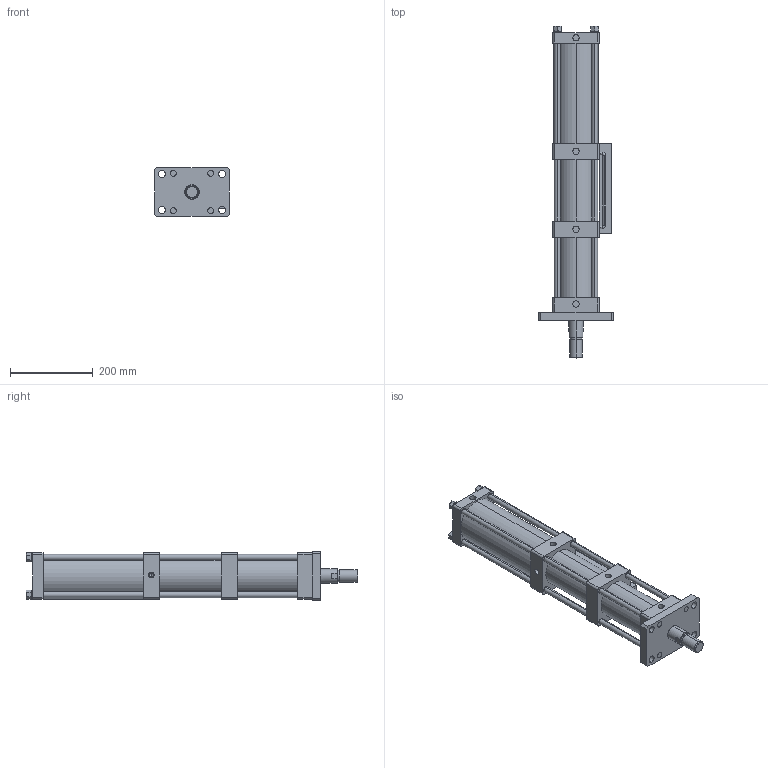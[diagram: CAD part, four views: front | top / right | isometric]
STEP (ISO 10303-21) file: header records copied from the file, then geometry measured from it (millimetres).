
FILE_DESCRIPTION (( 'STEP AP203' ), '1' );
FILE_NAME ('MPTF-80-100-15-5T.STEP', '2016-03-29T10:09:25', ( 'WIN' ), ( '' ), 'SwSTEP 2.0', 'SolidWorks 2014', '' );
FILE_SCHEMA (( 'CONFIG_CONTROL_DESIGN' ));
Length unit declared in the file: millimetre
Products named in the file (1): MPTF-80-100-15-5T
Bounding box: 180 x 800 x 118 mm (x, y, z)
Volume: 3459836.1 mm3; surface area: 687111.5 mm2
Topology: 5 solids, 5 shells, 266 faces, 632 edges, 413 vertices
Faces by surface type: cylinder 136, plane 120, cone 6, torus 4
Entity records: 7973 total; most frequent: DIRECTION 1448, CARTESIAN_POINT 1382, ORIENTED_EDGE 1260, EDGE_CURVE 630, AXIS2_PLACEMENT_3D 555, VERTEX_POINT 413, EDGE_LOOP 349, VECTOR 338
